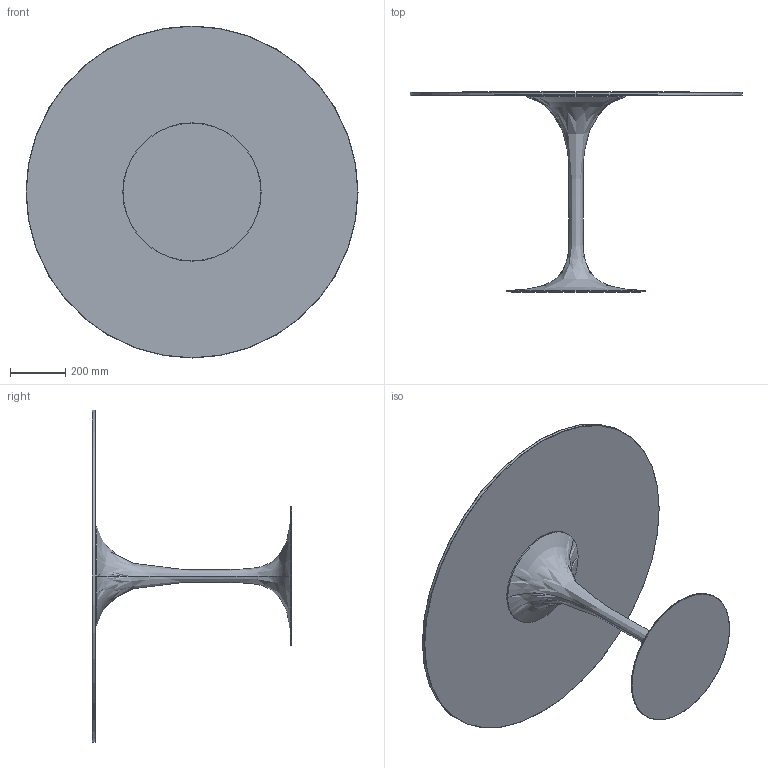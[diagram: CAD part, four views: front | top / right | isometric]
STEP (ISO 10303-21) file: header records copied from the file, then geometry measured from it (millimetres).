
FILE_DESCRIPTION (( 'STEP AP203' ), '1' );
FILE_NAME ('SATURNO_H72_DIAM120.STEP', '2014-12-22T10:31:38', ( '' ), ( '' ), 'SwSTEP 2.0', 'SolidWorks 2014', '' );
FILE_SCHEMA (( 'CONFIG_CONTROL_DESIGN' ));
Length unit declared in the file: millimetre
Products named in the file (1): SATURNO_H72_DIAM120
Bounding box: 1200 x 722 x 1200 mm (x, y, z)
Volume: 22580977.9 mm3; surface area: 3027691.1 mm2
Topology: 2 solids, 2 shells, 20 faces, 40 edges, 24 vertices
Faces by surface type: torus 8, cylinder 6, plane 4, bspline 2
Entity records: 701 total; most frequent: CARTESIAN_POINT 191, DIRECTION 108, ORIENTED_EDGE 80, AXIS2_PLACEMENT_3D 51, EDGE_CURVE 40, CIRCLE 32, VERTEX_POINT 24, EDGE_LOOP 20
